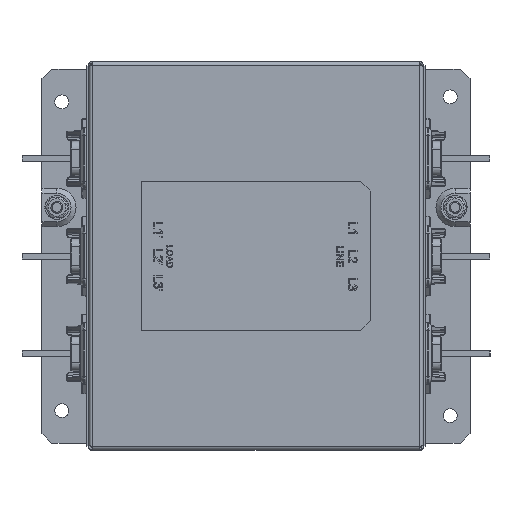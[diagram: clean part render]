
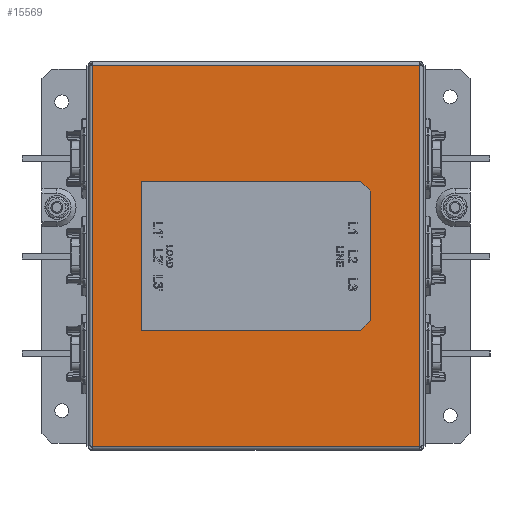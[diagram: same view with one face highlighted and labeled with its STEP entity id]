
A CAD part, top view. The second image highlights one B-rep face of the part: STEP entity #15569.
In plain terms, the highlighted planar face has unit normal (0, 0, 1).
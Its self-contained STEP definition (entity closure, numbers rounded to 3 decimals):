
#7622=CARTESIAN_POINT('',(-57.5,37.5,140.));
#7623=VERTEX_POINT('',#7622);
#7624=CARTESIAN_POINT('',(52.5,37.5,140.));
#7625=VERTEX_POINT('',#7624);
#7626=CARTESIAN_POINT('',(-57.5,37.5,140.));
#7627=DIRECTION('',(1.0,0.0,0.0));
#7628=VECTOR('',#7627,110.);
#7629=LINE('',#7626,#7628);
#7630=EDGE_CURVE('',#7623,#7625,#7629,.T.);
#7653=CARTESIAN_POINT('',(57.5,32.5,140.));
#7654=VERTEX_POINT('',#7653);
#7655=CARTESIAN_POINT('',(52.5,37.5,140.));
#7656=DIRECTION('',(0.707,-0.707,0.));
#7657=VECTOR('',#7656,7.071);
#7658=LINE('',#7655,#7657);
#7659=EDGE_CURVE('',#7625,#7654,#7658,.T.);
#7677=CARTESIAN_POINT('',(57.5,-32.5,140.));
#7678=VERTEX_POINT('',#7677);
#7679=CARTESIAN_POINT('',(57.5,32.5,140.));
#7680=DIRECTION('',(0.0,-1.0,0.0));
#7681=VECTOR('',#7680,65.);
#7682=LINE('',#7679,#7681);
#7683=EDGE_CURVE('',#7654,#7678,#7682,.T.);
#7701=CARTESIAN_POINT('',(52.5,-37.5,140.));
#7702=VERTEX_POINT('',#7701);
#7703=CARTESIAN_POINT('',(57.5,-32.5,140.));
#7704=DIRECTION('',(-0.707,-0.707,0.));
#7705=VECTOR('',#7704,7.071);
#7706=LINE('',#7703,#7705);
#7707=EDGE_CURVE('',#7678,#7702,#7706,.T.);
#7725=CARTESIAN_POINT('',(-57.5,-37.5,140.));
#7726=VERTEX_POINT('',#7725);
#7727=CARTESIAN_POINT('',(52.5,-37.5,140.));
#7728=DIRECTION('',(-1.0,0.0,0.0));
#7729=VECTOR('',#7728,110.0);
#7730=LINE('',#7727,#7729);
#7731=EDGE_CURVE('',#7702,#7726,#7730,.T.);
#7749=CARTESIAN_POINT('',(-57.5,-37.5,140.));
#7750=DIRECTION('',(0.0,1.0,0.0));
#7751=VECTOR('',#7750,75.);
#7752=LINE('',#7749,#7751);
#7753=EDGE_CURVE('',#7726,#7623,#7752,.T.);
#12898=CARTESIAN_POINT('',(-82.2,-95.7,140.));
#12899=VERTEX_POINT('',#12898);
#12907=CARTESIAN_POINT('',(-82.2,95.7,140.));
#12908=VERTEX_POINT('',#12907);
#12909=CARTESIAN_POINT('',(-82.2,95.7,140.));
#12910=DIRECTION('',(0.0,-1.0,0.0));
#12911=VECTOR('',#12910,191.4);
#12912=LINE('',#12909,#12911);
#12913=EDGE_CURVE('',#12908,#12899,#12912,.T.);
#13609=CARTESIAN_POINT('',(82.2,-95.7,140.));
#13610=VERTEX_POINT('',#13609);
#13620=CARTESIAN_POINT('',(-82.2,-95.7,140.));
#13621=DIRECTION('',(1.0,0.0,0.0));
#13622=VECTOR('',#13621,164.4);
#13623=LINE('',#13620,#13622);
#13624=EDGE_CURVE('',#12899,#13610,#13623,.T.);
#14483=CARTESIAN_POINT('',(82.2,95.7,140.));
#14484=VERTEX_POINT('',#14483);
#14485=CARTESIAN_POINT('',(82.2,95.7,140.));
#14486=DIRECTION('',(-1.0,0.0,0.0));
#14487=VECTOR('',#14486,164.4);
#14488=LINE('',#14485,#14487);
#14489=EDGE_CURVE('',#14484,#12908,#14488,.T.);
#14670=CARTESIAN_POINT('',(82.2,95.7,140.));
#14671=DIRECTION('',(0.0,-1.0,0.0));
#14672=VECTOR('',#14671,191.4);
#14673=LINE('',#14670,#14672);
#14674=EDGE_CURVE('',#14484,#13610,#14673,.T.);
#15550=CARTESIAN_POINT('',(82.195,77.505,140.));
#15551=DIRECTION('',(0.0,0.0,1.0));
#15552=DIRECTION('',(0.0,-1.0,0.0));
#15553=AXIS2_PLACEMENT_3D('',#15550,#15551,#15552);
#15554=PLANE('',#15553);
#15555=ORIENTED_EDGE('',*,*,#14674,.F.);
#15556=ORIENTED_EDGE('',*,*,#14489,.T.);
#15557=ORIENTED_EDGE('',*,*,#12913,.T.);
#15558=ORIENTED_EDGE('',*,*,#13624,.T.);
#15559=EDGE_LOOP('',(#15555,#15556,#15557,#15558));
#15560=FACE_OUTER_BOUND('',#15559,.T.);
#15561=ORIENTED_EDGE('',*,*,#7630,.T.);
#15562=ORIENTED_EDGE('',*,*,#7659,.T.);
#15563=ORIENTED_EDGE('',*,*,#7683,.T.);
#15564=ORIENTED_EDGE('',*,*,#7707,.T.);
#15565=ORIENTED_EDGE('',*,*,#7731,.T.);
#15566=ORIENTED_EDGE('',*,*,#7753,.T.);
#15567=EDGE_LOOP('',(#15561,#15562,#15563,#15564,#15565,#15566));
#15568=FACE_BOUND('',#15567,.T.);
#15569=ADVANCED_FACE('',(#15560,#15568),#15554,.T.);
